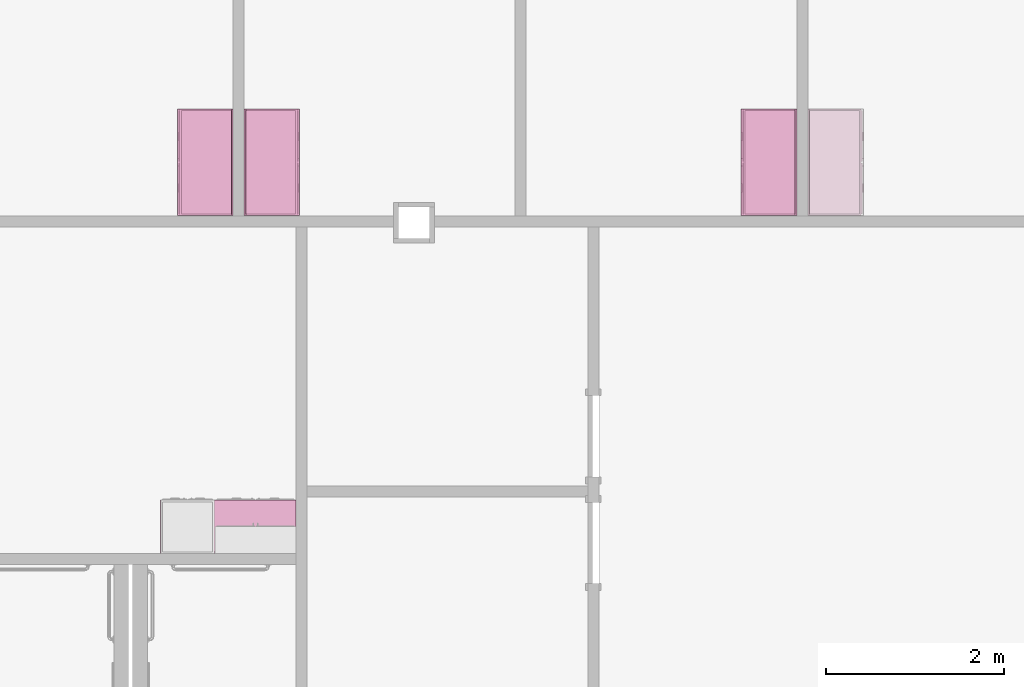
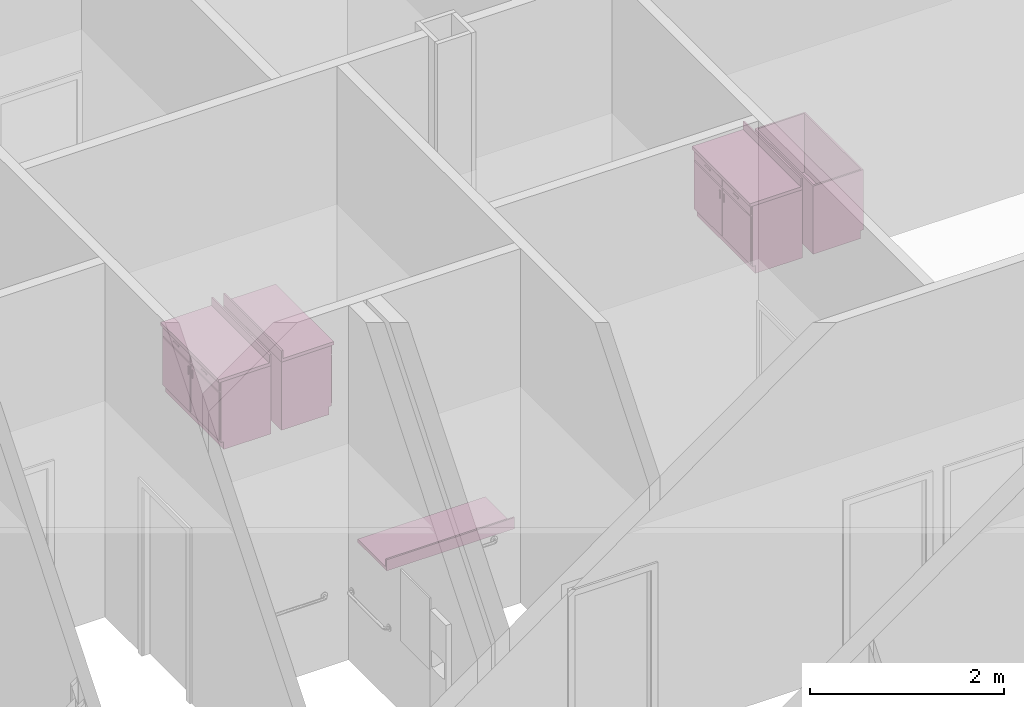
# One storey, part 77 of 87: 8 furnishings, 3 openings.
"""IFC2X3 building model written with IfcOpenShell, lengths in metres."""

from ifc_helpers import new_model, entity, si_unit, converted_unit, frame, frame_2d, origin, origin_2d_with_axis, place, context, project, spatial, polyline, circle_curve, parameter, trimmed, segment, composite_curve, rectangle, outline, extrude, face_set, surface_model, source, transform, mapped, type_object, type_shapes, element, save


model = new_model("IFC2X3")

# Units and contexts
model_context = context("Model", 3, precision=1e-09, world=origin())
plan_context = context("Plan", 3, precision=1e-09, world=origin())
ifc_project = project(units=[si_unit("LENGTHUNIT", "METRE"), si_unit("AREAUNIT", "SQUARE_METRE"), si_unit("VOLUMEUNIT", "CUBIC_METRE"), converted_unit("PLANEANGLEUNIT", "DEGREE", entity("IfcRatioMeasure", 0.01745329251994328), si_unit("PLANEANGLEUNIT", "RADIAN"), dimensions=[0, 0, 0, 0, 0, 0, 0]), si_unit("TIMEUNIT", "SECOND")], contexts=[model_context, plan_context])

# Site, building, storey, space
site_placement = place(None, origin())
site = spatial("IfcSite", under=ifc_project, at=site_placement, Name="Default", CompositionType="ELEMENT")
building_placement = place(site_placement, origin())
building = spatial("IfcBuilding", under=site, at=building_placement, CompositionType="ELEMENT")
storey_placement = place(building_placement, origin())
storey = spatial("IfcBuildingStorey", under=building, at=storey_placement, Name="First Floor", CompositionType="ELEMENT", Elevation=-3.531500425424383e-13)
space_1_placement = place(storey_placement, origin())
space_1 = spatial("IfcSpace", under=storey, at=space_1_placement, Name="1D32", CompositionType="ELEMENT", InteriorOrExteriorSpace="INTERNAL")

# Furnishing
furniture_type_1 = type_object("IfcFurnitureType", Name="1200mm", AssemblyPlace="NOTDEFINED")
shared_shape_1 = source(origin(), model_context, "Body", "SurfaceModel", [
    surface_model("IfcFaceBasedSurfaceModel", [(1.180949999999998, 0.04445000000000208, 0.86000000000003), (1.180949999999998, 0.04445000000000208, 0.09999999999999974), (0.01905000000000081, 0.04445000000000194, 0.09999999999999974), (0.01905000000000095, 0.04445000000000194, 0.86000000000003), (1.2, 0.02540000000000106, 0.8600000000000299), (0.0, 0.02540000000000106, 0.8600000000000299), (1.2, 0.02540000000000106, 0.09999999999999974), (0.0, 0.02540000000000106, 0.0999999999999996), (0.01905000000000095, 0.6063499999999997, 0.86000000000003), (0.01905000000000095, 0.6063499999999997, 0.09999999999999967), (0.01905000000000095, 0.06040000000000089, 0.09999999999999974), (0.0, 0.6254000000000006, 0.8600000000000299), (0.0, 0.6254000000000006, 0.0), (0.0, 0.06040000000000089, 0.0), (0.0, 0.06040000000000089, 0.09999999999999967), (1.180949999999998, 0.6063499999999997, 0.86000000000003), (1.180949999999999, 0.6063499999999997, 0.09999999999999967), (1.2, 0.6254000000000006, 0.8600000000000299), (1.2, 0.6254000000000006, 0.0), (1.180949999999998, 0.06040000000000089, 0.09999999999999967), (1.2, 0.06040000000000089, 0.09999999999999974), (1.2, 0.06040000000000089, 0.0), (0.3603250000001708, 0.0, 0.8155500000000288), (0.3603250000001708, 0.0, 0.8028500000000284), (0.258725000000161, 0.0, 0.8028500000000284), (0.258725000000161, 0.0, 0.8155500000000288), (0.9412750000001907, 0.0, 0.8155500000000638), (0.9412750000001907, 0.0, 0.8028500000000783), (0.8396750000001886, 0.0, 0.8028500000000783), (0.8396750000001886, 0.0, 0.8155500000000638), (0.5650750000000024, 0.0, 0.6822000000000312), (0.5650750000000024, 0.0, 0.5806000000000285), (0.5523750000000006, 0.0, 0.5806000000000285), (0.5523750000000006, 0.0, 0.6822000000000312), (0.6476249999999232, 0.0, 0.6822000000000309), (0.6476249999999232, 0.0, 0.5806000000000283), (0.6349249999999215, 0.0, 0.5806000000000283), (0.6349249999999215, 0.0, 0.6822000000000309), (0.3603250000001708, 0.01270000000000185, 0.8155500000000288), (0.3603250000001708, 0.01270000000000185, 0.8028500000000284), (0.2587250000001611, 0.01270000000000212, 0.8028500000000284), (0.2587250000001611, 0.01270000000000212, 0.8155500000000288), (0.9412750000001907, 0.01269999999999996, 0.8155500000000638), (0.9412750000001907, 0.01269999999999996, 0.8028500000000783), (0.8396750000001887, 0.01270000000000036, 0.8028500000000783), (0.8396750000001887, 0.01270000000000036, 0.8155500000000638), (0.5650750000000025, 0.01270000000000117, 0.6822000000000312), (0.5650750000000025, 0.01270000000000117, 0.5806000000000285), (0.5523750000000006, 0.01270000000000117, 0.5806000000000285), (0.5523750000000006, 0.01270000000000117, 0.6822000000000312), (0.6476249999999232, 0.0127000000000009, 0.6822000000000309), (0.6476249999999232, 0.0127000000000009, 0.5806000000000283), (0.6349249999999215, 0.0127000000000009, 0.5806000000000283), (0.6349249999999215, 0.0127000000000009, 0.6822000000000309), (0.5904749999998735, 0.01270000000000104, 0.8409500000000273), (0.5904749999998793, 0.01270000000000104, 0.7393500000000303), (0.01905000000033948, 0.0127000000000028, 0.7393500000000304), (0.01905000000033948, 0.0127000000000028, 0.8409500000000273), (1.180950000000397, 0.01269999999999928, 0.8409500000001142), (1.180950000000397, 0.01269999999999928, 0.7393500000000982), (0.6095249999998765, 0.01270000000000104, 0.7393500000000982), (0.6095249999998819, 0.01270000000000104, 0.8409500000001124), (0.5904749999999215, 0.01270000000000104, 0.7203000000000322), (0.5904749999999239, 0.01270000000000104, 0.1190499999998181), (0.01905000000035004, 0.0127000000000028, 0.1190499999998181), (0.01905000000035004, 0.0127000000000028, 0.7203000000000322), (1.180950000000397, 0.01269999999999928, 0.7203000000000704), (1.180950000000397, 0.01269999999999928, 0.1190499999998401), (0.6095249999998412, 0.01270000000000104, 0.1190499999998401), (0.6095249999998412, 0.01270000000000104, 0.7203000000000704), (0.5904749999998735, 0.02540000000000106, 0.8409500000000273), (0.5904749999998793, 0.02540000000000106, 0.7393500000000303), (0.01905000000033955, 0.02540000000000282, 0.7393500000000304), (0.01905000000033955, 0.02540000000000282, 0.8409500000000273), (1.180950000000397, 0.02539999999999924, 0.8409500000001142), (1.180950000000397, 0.02539999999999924, 0.7393500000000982), (0.6095249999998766, 0.025400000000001, 0.7393500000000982), (0.6095249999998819, 0.025400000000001, 0.8409500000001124), (0.5904749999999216, 0.02540000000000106, 0.7203000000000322), (0.5904749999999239, 0.02540000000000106, 0.1190499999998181), (0.01905000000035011, 0.02540000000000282, 0.1190499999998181), (0.01905000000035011, 0.02540000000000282, 0.7203000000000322), (1.180950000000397, 0.02539999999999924, 0.7203000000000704), (1.180950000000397, 0.02539999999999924, 0.1190499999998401), (0.6095249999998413, 0.025400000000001, 0.1190499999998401), (0.6095249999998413, 0.025400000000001, 0.7203000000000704), (1.180949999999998, 0.6063499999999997, 0.1190499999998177), (1.180949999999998, 0.04445000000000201, 0.1190499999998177), (0.01905000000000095, 0.04445000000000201, 0.1190499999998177), (0.01905000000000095, 0.6063499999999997, 0.1190499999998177), (1.180949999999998, 0.6063499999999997, 0.09999999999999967), (1.180949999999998, 0.04445000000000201, 0.09999999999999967), (0.01905000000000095, 0.04445000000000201, 0.09999999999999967), (0.01905000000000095, 0.6063499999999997, 0.09999999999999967)], [face_set([[[0, 1, 2, 3]], [[0, 4, 5, 3]], [[4, 6, 7, 5]], [[2, 1, 6, 7]], [[3, 8, 9, 10, 2]], [[5, 11, 8, 3]], [[7, 5, 11, 12, 13, 14]], [[2, 7, 14, 10]], [[8, 15, 16, 9]], [[11, 17, 15, 8]], [[12, 11, 17, 18]], [[1, 19, 16, 15, 0]], [[0, 15, 17, 4]], [[4, 6, 20, 21, 18, 17]], [[6, 1, 19, 20]], [[10, 9, 16, 19]], [[18, 21, 13, 12]], [[13, 14, 10, 19, 20, 21]]]), face_set([[[22, 23, 24, 25]], [[26, 27, 28, 29]], [[30, 31, 32, 33]], [[34, 35, 36, 37]], [[38, 39, 40, 41]], [[42, 43, 44, 45]], [[46, 47, 48, 49]], [[50, 51, 52, 53]], [[25, 41, 38, 22]], [[24, 40, 41, 25]], [[23, 24, 40, 39]], [[22, 23, 39, 38]], [[29, 45, 42, 26]], [[28, 44, 45, 29]], [[27, 28, 44, 43]], [[26, 27, 43, 42]], [[33, 49, 46, 30]], [[32, 48, 49, 33]], [[31, 32, 48, 47]], [[30, 31, 47, 46]], [[37, 53, 50, 34]], [[36, 52, 53, 37]], [[35, 36, 52, 51]], [[34, 35, 51, 50]]]), face_set([[[54, 55, 56, 57]], [[58, 59, 60, 61]], [[62, 63, 64, 65]], [[66, 67, 68, 69]], [[70, 71, 72, 73]], [[74, 75, 76, 77]], [[78, 79, 80, 81]], [[82, 83, 84, 85]], [[57, 73, 70, 54]], [[56, 57, 73, 72]], [[55, 56, 72, 71]], [[54, 55, 71, 70]], [[61, 77, 74, 58]], [[60, 76, 77, 61]], [[59, 60, 76, 75]], [[58, 59, 75, 74]], [[65, 81, 78, 62]], [[64, 65, 81, 80]], [[63, 64, 80, 79]], [[62, 63, 79, 78]], [[69, 85, 82, 66]], [[68, 84, 85, 69]], [[67, 68, 84, 83]], [[66, 67, 83, 82]]]), face_set([[[86, 87, 88, 89]], [[90, 91, 92, 93]], [[89, 86, 90, 93]], [[88, 89, 93, 92]], [[87, 91, 92, 88]], [[86, 87, 91, 90]]])]),
])
type_shapes(furniture_type_1, [shared_shape_1])
furnishing_1_placement = place(space_1_placement, frame((-34.83484908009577, 18.69000003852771, 0.0), z_axis=(0.0, 0.0, 1.0), x_axis=(0.0, 1.0, 0.0)))
element("IfcFurnishingElement", 1, at=furnishing_1_placement, inside=space_1, type_object=furniture_type_1, Name="M_Base Cabinet-Double Door & 2 Drawer:1200mm:1200mm", ObjectType="1200mm", context=model_context, shape_type="MappedRepresentation", body=[
    mapped(shared_shape_1, transform((0.0, 0.0, 0.0), scale=1.0)),
])

# Space
space_2_placement = place(storey_placement, origin())
space_2 = spatial("IfcSpace", under=storey, at=space_2_placement, Name="1D36", CompositionType="ELEMENT", InteriorOrExteriorSpace="INTERNAL")

# Furnishing
furnishing_2_placement = place(space_2_placement, frame((-28.49484908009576, 18.69000003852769, 0.0), z_axis=(0.0, 0.0, 1.0), x_axis=(0.0, 1.0, 0.0)))
element("IfcFurnishingElement", 2, at=furnishing_2_placement, inside=space_2, type_object=furniture_type_1, Name="M_Base Cabinet-Double Door & 2 Drawer:1200mm:1200mm", ObjectType="1200mm", context=model_context, shape_type="MappedRepresentation", body=[
    mapped(shared_shape_1, transform((0.0, 0.0, 0.0), scale=1.0)),
])

# Space
space_3_placement = place(storey_placement, origin())
space_3 = spatial("IfcSpace", under=storey, at=space_3_placement, Name="1E11", CompositionType="ELEMENT", InteriorOrExteriorSpace="INTERNAL")

# Furnishing
furniture_type_2 = type_object("IfcFurnitureType", Name="600mm Depth", AssemblyPlace="NOTDEFINED")
shared_shape_2 = source(origin(), model_context, "Body", "SweptSolid", [
    extrude(rectangle(XDim=0.01905000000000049, YDim=1.524999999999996, at=origin_2d_with_axis()), frame((-0.4379622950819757, -0.009525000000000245, 0.9000000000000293), z_axis=(0.0, 0.0, 1.0), x_axis=(0.0, -1.0, 0.0)), (0.0, 0.0, 1.0), 0.1016000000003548),
    extrude(rectangle(XDim=1.524999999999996, YDim=0.5999999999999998, at=origin_2d_with_axis()), frame((-0.4379622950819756, -0.2999999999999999, 0.8600000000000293), z_axis=(0.0, 0.0, 1.0), x_axis=(-1.0, 0.0, 0.0)), (0.0, 0.0, 1.0), 0.04000000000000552),
])
type_shapes(furniture_type_2, [shared_shape_2])
furnishing_3_placement = place(space_3_placement, frame((-36.07446229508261, 14.88999999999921, 0.0), z_axis=(0.0, 0.0, 1.0), x_axis=(-1.0, 0.0, 0.0)))
element("IfcFurnishingElement", 3, at=furnishing_3_placement, inside=space_3, type_object=furniture_type_2, Name="M_Counter Top:600mm Depth:600mm Depth", ObjectType="600mm Depth", context=model_context, shape_type="MappedRepresentation", body=[
    mapped(shared_shape_2, transform((0.0, 0.0, 0.0), scale=1.0)),
])

# Space
space_4_placement = place(storey_placement, origin())
space_4 = spatial("IfcSpace", under=storey, at=space_4_placement, Name="1D28", CompositionType="ELEMENT", InteriorOrExteriorSpace="INTERNAL")

# Furnishing
furniture_type_3 = type_object("IfcFurnitureType", Name="1200mm", AssemblyPlace="NOTDEFINED")
shared_shape_3 = source(origin(), model_context, "Body", "SurfaceModel", [
    surface_model("IfcFaceBasedSurfaceModel", [(1.180949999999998, 0.5809499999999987, 0.8600000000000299), (0.01905000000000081, 0.5809499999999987, 0.8600000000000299), (0.01905000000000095, 0.5809499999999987, 0.09999999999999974), (1.180949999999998, 0.5809499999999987, 0.09999999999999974), (0.0, 0.5999999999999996, 0.8600000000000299), (1.2, 0.5999999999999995, 0.8600000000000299), (0.0, 0.5999999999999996, 0.09999999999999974), (1.2, 0.5999999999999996, 0.0999999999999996), (0.01905000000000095, 0.5649999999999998, 0.09999999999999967), (0.01905000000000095, 0.019050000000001, 0.09999999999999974), (0.01905000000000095, 0.019050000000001, 0.8600000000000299), (0.0, 0.0, 0.8600000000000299), (0.0, 0.0, 0.0), (0.0, 0.5649999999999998, 0.0), (0.0, 0.5649999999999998, 0.09999999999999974), (1.180949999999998, 0.01905000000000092, 0.09999999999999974), (1.180949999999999, 0.01905000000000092, 0.8600000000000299), (1.2, 0.0, 0.8600000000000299), (1.2, 0.0, 0.0), (1.180949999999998, 0.5649999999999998, 0.09999999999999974), (1.2, 0.5649999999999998, 0.0), (1.2, 0.5649999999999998, 0.0999999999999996), (0.3603250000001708, 0.6253999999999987, 0.8155500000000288), (0.258725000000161, 0.6253999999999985, 0.8155500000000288), (0.2587250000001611, 0.6253999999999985, 0.8028500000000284), (0.3603250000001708, 0.6253999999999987, 0.8028500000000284), (0.9412750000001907, 0.6254000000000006, 0.8155500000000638), (0.8396750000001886, 0.6254000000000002, 0.8155500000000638), (0.8396750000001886, 0.6254000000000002, 0.8028500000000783), (0.9412750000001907, 0.6254000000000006, 0.8028500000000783), (0.5650750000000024, 0.6253999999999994, 0.6822000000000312), (0.5523750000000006, 0.6253999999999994, 0.6822000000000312), (0.5523750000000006, 0.6253999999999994, 0.5806000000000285), (0.5650750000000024, 0.6253999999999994, 0.5806000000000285), (0.6476249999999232, 0.6253999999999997, 0.6822000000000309), (0.6349249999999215, 0.6253999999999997, 0.6822000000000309), (0.6349249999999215, 0.6253999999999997, 0.5806000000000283), (0.6476249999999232, 0.6253999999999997, 0.5806000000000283), (0.3603250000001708, 0.6126999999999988, 0.8155500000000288), (0.2587250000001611, 0.6126999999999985, 0.8155500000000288), (0.2587250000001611, 0.6126999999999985, 0.8028500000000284), (0.3603250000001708, 0.6126999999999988, 0.8028500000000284), (0.9412750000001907, 0.6127000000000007, 0.8155500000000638), (0.8396750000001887, 0.6127000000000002, 0.8155500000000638), (0.8396750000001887, 0.6127000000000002, 0.8028500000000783), (0.9412750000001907, 0.6127000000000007, 0.8028500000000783), (0.5650750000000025, 0.6126999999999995, 0.6822000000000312), (0.5523750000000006, 0.6126999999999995, 0.6822000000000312), (0.5523750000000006, 0.6126999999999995, 0.5806000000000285), (0.5650750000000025, 0.6126999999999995, 0.5806000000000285), (0.6476249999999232, 0.6126999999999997, 0.6822000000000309), (0.6349249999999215, 0.6126999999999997, 0.6822000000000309), (0.6349249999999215, 0.6126999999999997, 0.5806000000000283), (0.6476249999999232, 0.6126999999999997, 0.5806000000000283), (0.5904749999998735, 0.6126999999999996, 0.8409500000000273), (0.01905000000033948, 0.6126999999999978, 0.8409500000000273), (0.01905000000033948, 0.6126999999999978, 0.7393500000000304), (0.5904749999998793, 0.6126999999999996, 0.7393500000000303), (1.180950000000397, 0.6127000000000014, 0.8409500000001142), (0.6095249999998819, 0.6126999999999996, 0.8409500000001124), (0.6095249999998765, 0.6126999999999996, 0.7393500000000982), (1.180950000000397, 0.6127000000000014, 0.7393500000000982), (0.5904749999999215, 0.6126999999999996, 0.7203000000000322), (0.01905000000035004, 0.6126999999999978, 0.7203000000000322), (0.01905000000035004, 0.6126999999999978, 0.1190499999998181), (0.5904749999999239, 0.6126999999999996, 0.1190499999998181), (1.180950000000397, 0.6127000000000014, 0.7203000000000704), (0.6095249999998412, 0.6126999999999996, 0.7203000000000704), (0.6095249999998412, 0.6126999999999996, 0.1190499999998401), (1.180950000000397, 0.6127000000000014, 0.1190499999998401), (0.5904749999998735, 0.5999999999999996, 0.8409500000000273), (0.01905000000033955, 0.5999999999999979, 0.8409500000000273), (0.01905000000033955, 0.5999999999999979, 0.7393500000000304), (0.5904749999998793, 0.5999999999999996, 0.7393500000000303), (1.180950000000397, 0.6000000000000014, 0.8409500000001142), (0.6095249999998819, 0.5999999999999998, 0.8409500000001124), (0.6095249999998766, 0.5999999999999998, 0.7393500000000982), (1.180950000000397, 0.6000000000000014, 0.7393500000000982), (0.5904749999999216, 0.5999999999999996, 0.7203000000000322), (0.01905000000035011, 0.5999999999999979, 0.7203000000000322), (0.01905000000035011, 0.5999999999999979, 0.1190499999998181), (0.5904749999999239, 0.5999999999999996, 0.1190499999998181), (1.180950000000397, 0.6000000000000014, 0.7203000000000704), (0.6095249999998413, 0.5999999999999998, 0.7203000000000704), (0.6095249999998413, 0.5999999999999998, 0.1190499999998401), (1.180950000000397, 0.6000000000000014, 0.1190499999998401), (1.180949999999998, 0.019050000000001, 0.1190499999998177), (0.01905000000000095, 0.019050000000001, 0.1190499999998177), (0.01905000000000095, 0.5809499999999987, 0.1190499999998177), (1.180949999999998, 0.5809499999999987, 0.1190499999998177), (1.180949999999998, 0.01905000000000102, 0.09999999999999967), (0.01905000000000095, 0.019050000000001, 0.09999999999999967), (0.01905000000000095, 0.5809499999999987, 0.09999999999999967), (1.180949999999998, 0.5809499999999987, 0.09999999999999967)], [face_set([[[0, 1, 2, 3]], [[0, 1, 4, 5]], [[5, 4, 6, 7]], [[2, 6, 7, 3]], [[1, 2, 8, 9, 10]], [[4, 1, 10, 11]], [[6, 4, 11, 12, 13, 14]], [[2, 8, 14, 6]], [[10, 9, 15, 16]], [[11, 10, 16, 17]], [[12, 18, 17, 11]], [[3, 0, 16, 15, 19]], [[0, 5, 17, 16]], [[5, 17, 18, 20, 21, 7]], [[7, 21, 19, 3]], [[8, 19, 15, 9]], [[18, 12, 13, 20]], [[13, 20, 21, 19, 8, 14]]]), face_set([[[22, 23, 24, 25]], [[26, 27, 28, 29]], [[30, 31, 32, 33]], [[34, 35, 36, 37]], [[38, 39, 40, 41]], [[42, 43, 44, 45]], [[46, 47, 48, 49]], [[50, 51, 52, 53]], [[23, 22, 38, 39]], [[24, 23, 39, 40]], [[25, 41, 40, 24]], [[22, 38, 41, 25]], [[27, 26, 42, 43]], [[28, 27, 43, 44]], [[29, 45, 44, 28]], [[26, 42, 45, 29]], [[31, 30, 46, 47]], [[32, 31, 47, 48]], [[33, 49, 48, 32]], [[30, 46, 49, 33]], [[35, 34, 50, 51]], [[36, 35, 51, 52]], [[37, 53, 52, 36]], [[34, 50, 53, 37]]]), face_set([[[54, 55, 56, 57]], [[58, 59, 60, 61]], [[62, 63, 64, 65]], [[66, 67, 68, 69]], [[70, 71, 72, 73]], [[74, 75, 76, 77]], [[78, 79, 80, 81]], [[82, 83, 84, 85]], [[55, 54, 70, 71]], [[56, 72, 71, 55]], [[57, 73, 72, 56]], [[54, 70, 73, 57]], [[59, 58, 74, 75]], [[60, 59, 75, 76]], [[61, 77, 76, 60]], [[58, 74, 77, 61]], [[63, 62, 78, 79]], [[64, 80, 79, 63]], [[65, 81, 80, 64]], [[62, 78, 81, 65]], [[67, 66, 82, 83]], [[68, 67, 83, 84]], [[69, 85, 84, 68]], [[66, 82, 85, 69]]]), face_set([[[86, 87, 88, 89]], [[90, 91, 92, 93]], [[87, 91, 90, 86]], [[88, 92, 91, 87]], [[89, 88, 92, 93]], [[86, 90, 93, 89]]])]),
])
type_shapes(furniture_type_3, [shared_shape_3])
furnishing_4_placement = place(space_4_placement, frame((-35.58375091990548, 18.69000003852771, 0.0), z_axis=(0.0, 0.0, 1.0), x_axis=(0.0, 1.0, 0.0)))
element("IfcFurnishingElement", 4, at=furnishing_4_placement, inside=space_4, type_object=furniture_type_3, Name="M_Base Cabinet-Double Door & 2 Drawer:1200mm:1200mm", ObjectType="1200mm", context=model_context, shape_type="MappedRepresentation", body=[
    mapped(shared_shape_3, transform((0.0, 0.0, 0.0), scale=1.0)),
])

# Space
space_5_placement = place(storey_placement, origin())
space_5 = spatial("IfcSpace", under=storey, at=space_5_placement, Name="1D34", CompositionType="ELEMENT", InteriorOrExteriorSpace="INTERNAL")

# Furnishing
furnishing_5_placement = place(space_5_placement, frame((-29.24375091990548, 18.69000003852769, 0.0), z_axis=(0.0, 0.0, 1.0), x_axis=(0.0, 1.0, 0.0)))
element("IfcFurnishingElement", 5, at=furnishing_5_placement, inside=space_5, type_object=furniture_type_3, Name="M_Base Cabinet-Double Door & 2 Drawer:1200mm:1200mm", ObjectType="1200mm", context=model_context, shape_type="MappedRepresentation", body=[
    mapped(shared_shape_3, transform((0.0, 0.0, 0.0), scale=1.0)),
])

# Furnishing, opening
furniture_type_4 = type_object("IfcFurnitureType", Name="600mm Depth", AssemblyPlace="NOTDEFINED")
shared_shape_4 = source(origin(), model_context, "Body", "SweptSolid", [
    extrude(outline(polyline([(-0.2146833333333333, -0.06053333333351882), (0.4103166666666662, -0.06053333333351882), (0.4103166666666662, -0.02053333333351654), (-0.1956333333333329, -0.02053333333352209), (-0.1956333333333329, 0.08106666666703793), (-0.2146833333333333, 0.08106666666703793), (-0.2146833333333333, -0.06053333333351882)])), frame((-1.200462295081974, 0.2146833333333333, 0.9205333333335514), z_axis=(1.0, 0.0, 0.0), x_axis=(0.0, 1.0, 0.0)), (0.0, 0.0, 1.0), 1.200000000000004),
])
type_shapes(furniture_type_4, [shared_shape_4])
furnishing_6_placement = place(space_4_placement, frame((-35.58400000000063, 19.89046233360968, 0.0), z_axis=(0.0, 0.0, 1.0), x_axis=(0.0, 1.0, 0.0)))
furnishing_6 = element("IfcFurnishingElement", 6, at=furnishing_6_placement, inside=space_4, type_object=furniture_type_4, Name="M_Counter Top w Sink Hole:600mm Depth:600mm Depth", ObjectType="600mm Depth", context=model_context, shape_type="MappedRepresentation", body=[
    mapped(shared_shape_4, transform((0.0, 0.0, 0.0), scale=1.0)),
])
opening_1_placement = place(space_4_placement, frame((-35.58400000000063, 19.89046233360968, 0.0), z_axis=(0.0, 0.0, 1.0), x_axis=(0.0, 1.0, 0.0)))
element("IfcOpeningElement", 7, at=opening_1_placement, cuts=furnishing_6, Name="M_Counter Top w Sink Hole:600mm Depth:600mm Depth:1", ObjectType="Opening", context=model_context, shape_type="SweptSolid", body=[
    extrude(outline(composite_curve([segment(trimmed(circle_curve(frame_2d((0.2553999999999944, -0.1575292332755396), x_axis=(1.0, 0.0)), 0.05080000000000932), [parameter(269.9999999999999)], [parameter(3.562221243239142e-13)], True, "PARAMETER"), True, "CONTINUOUS"), segment(polyline([(0.3062000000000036, -0.1575292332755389), (0.3062000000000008, 0.1575292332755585)]), True, "CONTINUOUS"), segment(trimmed(circle_curve(frame_2d((0.2554000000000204, 0.1575292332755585), x_axis=(1.0, 0.0)), 0.05079999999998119), [parameter(4.071109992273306e-13)], [parameter(90.00000000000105)], True, "PARAMETER"), True, "CONTINUOUS"), segment(polyline([(0.2554000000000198, 0.2083292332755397), (-0.2554000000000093, 0.208329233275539)]), True, "CONTINUOUS"), segment(trimmed(circle_curve(frame_2d((-0.2554000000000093, 0.1575292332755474), x_axis=(1.0, 0.0)), 0.0507999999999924), [parameter(90.0000000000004)], [parameter(180.0000000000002)], True, "PARAMETER"), True, "CONTINUOUS"), segment(polyline([(-0.3062000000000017, 0.1575292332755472), (-0.3062000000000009, -0.1575292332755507)]), True, "CONTINUOUS"), segment(trimmed(circle_curve(frame_2d((-0.2554000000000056, -0.1575292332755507), x_axis=(1.0, 0.0)), 0.05079999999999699), [parameter(179.9999999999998)], [parameter(270.0000000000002)], True, "PARAMETER"), True, "CONTINUOUS"), segment(polyline([(-0.2554000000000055, -0.2083292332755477), (0.2553999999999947, -0.2083292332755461)]), True, "CONTINUOUS")], self_intersect=False)), frame((0.3653589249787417, 0.6004622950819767, 0.8600000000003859), z_axis=(0.0, 0.0, 1.0), x_axis=(0.0, -1.0, 0.0)), (0.0, 0.0, 1.0), 0.04000000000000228),
])

furniture_type_5 = type_object("IfcFurnitureType", Name="600mm Depth", AssemblyPlace="NOTDEFINED")
shared_shape_5 = source(origin(), model_context, "Body", "SweptSolid", [
    extrude(outline(polyline([(-0.0605333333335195, -0.2146833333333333), (0.08106666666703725, -0.2146833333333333), (0.08106666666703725, -0.1956333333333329), (-0.02053333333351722, -0.1956333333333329), (-0.02053333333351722, 0.4103166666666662), (-0.0605333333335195, 0.4103166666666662), (-0.0605333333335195, -0.2146833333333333)])), frame((-1.200462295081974, -0.2146833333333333, 0.920533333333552), z_axis=(1.0, 0.0, 0.0), x_axis=(0.0, 0.0, 1.0)), (0.0, 0.0, 1.0), 1.200000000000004),
])
type_shapes(furniture_type_5, [shared_shape_5])
furnishing_7_placement = place(space_1_placement, frame((-35.46000000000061, 19.89046233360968, 0.0), z_axis=(0.0, 0.0, 1.0), x_axis=(0.0, 1.0, 0.0)))
furnishing_7 = element("IfcFurnishingElement", 8, at=furnishing_7_placement, inside=space_1, type_object=furniture_type_5, Name="M_Counter Top w Sink Hole:600mm Depth:600mm Depth", ObjectType="600mm Depth", context=model_context, shape_type="MappedRepresentation", body=[
    mapped(shared_shape_5, transform((0.0, 0.0, 0.0), scale=1.0)),
])
opening_2_placement = place(space_1_placement, frame((-35.46000000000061, 19.89046233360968, 0.0), z_axis=(0.0, 0.0, 1.0), x_axis=(0.0, 1.0, 0.0)))
element("IfcOpeningElement", 9, at=opening_2_placement, cuts=furnishing_7, Name="M_Counter Top w Sink Hole:600mm Depth:600mm Depth:1", ObjectType="Opening", context=model_context, shape_type="SweptSolid", body=[
    extrude(outline(composite_curve([segment(polyline([(-0.2554000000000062, -0.208329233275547), (0.255399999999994, -0.2083292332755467)]), True, "CONTINUOUS"), segment(trimmed(circle_curve(frame_2d((0.2553999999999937, -0.1575292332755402), x_axis=(1.0, 0.0)), 0.05080000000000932), [parameter(270.0000000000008)], [parameter(1.068666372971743e-12)], True, "PARAMETER"), True, "CONTINUOUS"), segment(polyline([(0.306200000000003, -0.1575292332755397), (0.3062000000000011, 0.1575292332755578)]), True, "CONTINUOUS"), segment(trimmed(circle_curve(frame_2d((0.2554000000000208, 0.1575292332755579), x_axis=(1.0, 0.0)), 0.05079999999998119), [parameter(359.9999999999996)], [parameter(90.0000000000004)], True, "PARAMETER"), True, "CONTINUOUS"), segment(polyline([(0.2554000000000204, 0.2083292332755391), (-0.2554000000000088, 0.2083292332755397)]), True, "CONTINUOUS"), segment(trimmed(circle_curve(frame_2d((-0.2554000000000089, 0.1575292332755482), x_axis=(1.0, 0.0)), 0.0507999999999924), [parameter(90.00000000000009)], [parameter(179.9999999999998)], True, "PARAMETER"), True, "CONTINUOUS"), segment(polyline([(-0.3062000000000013, 0.157529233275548), (-0.3062000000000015, -0.1575292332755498)]), True, "CONTINUOUS"), segment(trimmed(circle_curve(frame_2d((-0.2554000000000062, -0.15752923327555), x_axis=(1.0, 0.0)), 0.05079999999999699), [parameter(179.9999999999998)], [parameter(269.9999999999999)], True, "PARAMETER"), True, "CONTINUOUS")], self_intersect=False)), frame((-0.3653589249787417, 0.6004622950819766, 0.900000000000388), z_axis=(0.0, 0.0, -1.0), x_axis=(0.0, -1.0, 0.0)), (0.0, 0.0, 1.0), 0.04000000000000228),
])

furniture_type_6 = type_object("IfcFurnitureType", Name="600mm Depth", AssemblyPlace="NOTDEFINED")
shared_shape_6 = source(origin(), model_context, "Body", "SweptSolid", [
    extrude(outline(polyline([(-0.2146833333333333, -0.06053333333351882), (0.4103166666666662, -0.06053333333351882), (0.4103166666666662, -0.02053333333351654), (-0.1956333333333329, -0.02053333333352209), (-0.1956333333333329, 0.08106666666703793), (-0.2146833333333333, 0.08106666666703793), (-0.2146833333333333, -0.06053333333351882)])), frame((-1.200462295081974, 0.2146833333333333, 0.9205333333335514), z_axis=(1.0, 0.0, 0.0), x_axis=(0.0, 1.0, 0.0)), (0.0, 0.0, 1.0), 1.200000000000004),
])
type_shapes(furniture_type_6, [shared_shape_6])
furnishing_8_placement = place(space_5_placement, frame((-29.24400000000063, 19.89046233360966, 0.0), z_axis=(0.0, 0.0, 1.0), x_axis=(0.0, 1.0, 0.0)))
furnishing_8 = element("IfcFurnishingElement", 10, at=furnishing_8_placement, inside=space_5, type_object=furniture_type_6, Name="M_Counter Top w Sink Hole:600mm Depth:600mm Depth", ObjectType="600mm Depth", context=model_context, shape_type="MappedRepresentation", body=[
    mapped(shared_shape_6, transform((0.0, 0.0, 0.0), scale=1.0)),
])
opening_3_placement = place(space_5_placement, frame((-29.24400000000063, 19.89046233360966, 0.0), z_axis=(0.0, 0.0, 1.0), x_axis=(0.0, 1.0, 0.0)))
element("IfcOpeningElement", 11, at=opening_3_placement, cuts=furnishing_8, Name="M_Counter Top w Sink Hole:600mm Depth:600mm Depth:1", ObjectType="Opening", context=model_context, shape_type="SweptSolid", body=[
    extrude(outline(composite_curve([segment(trimmed(circle_curve(frame_2d((0.2553999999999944, -0.1575292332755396), x_axis=(1.0, 0.0)), 0.05080000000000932), [parameter(269.9999999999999)], [parameter(3.562221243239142e-13)], True, "PARAMETER"), True, "CONTINUOUS"), segment(polyline([(0.3062000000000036, -0.1575292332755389), (0.3062000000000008, 0.1575292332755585)]), True, "CONTINUOUS"), segment(trimmed(circle_curve(frame_2d((0.2554000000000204, 0.1575292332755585), x_axis=(1.0, 0.0)), 0.05079999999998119), [parameter(4.071109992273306e-13)], [parameter(90.00000000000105)], True, "PARAMETER"), True, "CONTINUOUS"), segment(polyline([(0.2554000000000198, 0.2083292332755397), (-0.2554000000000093, 0.208329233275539)]), True, "CONTINUOUS"), segment(trimmed(circle_curve(frame_2d((-0.2554000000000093, 0.1575292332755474), x_axis=(1.0, 0.0)), 0.0507999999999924), [parameter(90.0000000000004)], [parameter(180.0000000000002)], True, "PARAMETER"), True, "CONTINUOUS"), segment(polyline([(-0.3062000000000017, 0.1575292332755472), (-0.3062000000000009, -0.1575292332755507)]), True, "CONTINUOUS"), segment(trimmed(circle_curve(frame_2d((-0.2554000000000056, -0.1575292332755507), x_axis=(1.0, 0.0)), 0.05079999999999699), [parameter(179.9999999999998)], [parameter(270.0000000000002)], True, "PARAMETER"), True, "CONTINUOUS"), segment(polyline([(-0.2554000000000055, -0.2083292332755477), (0.2553999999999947, -0.2083292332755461)]), True, "CONTINUOUS")], self_intersect=False)), frame((0.3653589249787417, 0.6004622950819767, 0.8600000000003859), z_axis=(0.0, 0.0, 1.0), x_axis=(0.0, -1.0, 0.0)), (0.0, 0.0, 1.0), 0.04000000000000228),
])

save(model, "model.ifc")
